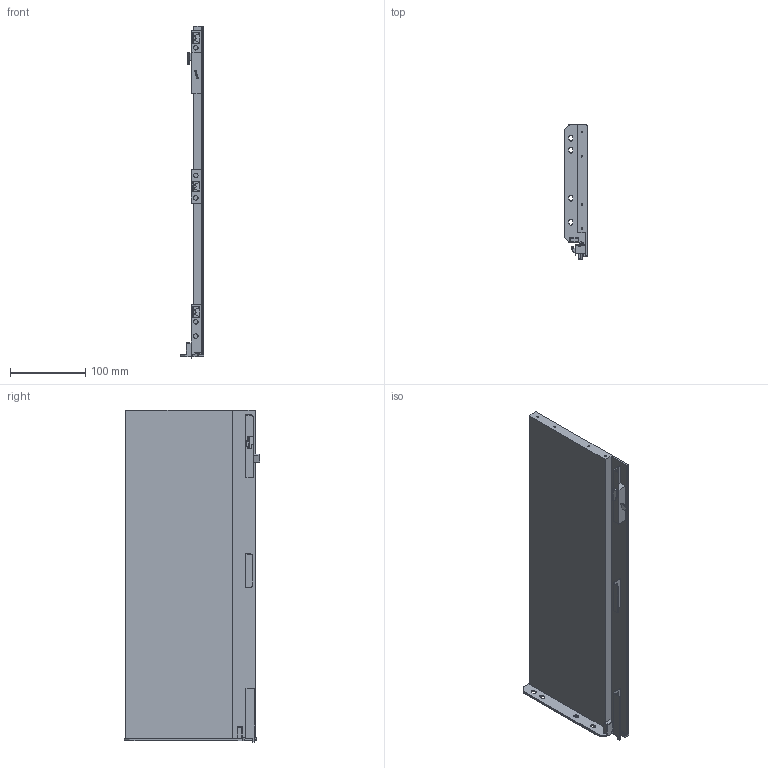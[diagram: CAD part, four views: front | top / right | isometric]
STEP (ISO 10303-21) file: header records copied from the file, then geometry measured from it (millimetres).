
FILE_DESCRIPTION (( 'STEP AP203' ), '1' );
FILE_NAME ('HE134501-R.STEP', '2021-03-30T01:34:15', ( 'Users' ), ( 'Microsoft' ), 'SwSTEP 2.0', 'SolidWorks 2018', '' );
FILE_SCHEMA (( 'CONFIG_CONTROL_DESIGN' ));
Length unit declared in the file: millimetre
Products named in the file (1): HE134501-R
Bounding box: 31 x 179.9 x 442.19 mm (x, y, z)
Volume: 870032.5 mm3; surface area: 183206.3 mm2
Topology: 1 solids, 1 shells, 493 faces, 1215 edges, 724 vertices
Faces by surface type: cylinder 206, plane 172, torus 82, bspline 24, cone 8, sphere 1
Entity records: 14857 total; most frequent: CARTESIAN_POINT 3170, DIRECTION 2531, ORIENTED_EDGE 2410, EDGE_CURVE 1205, AXIS2_PLACEMENT_3D 951, VERTEX_POINT 724, VECTOR 629, LINE 629
